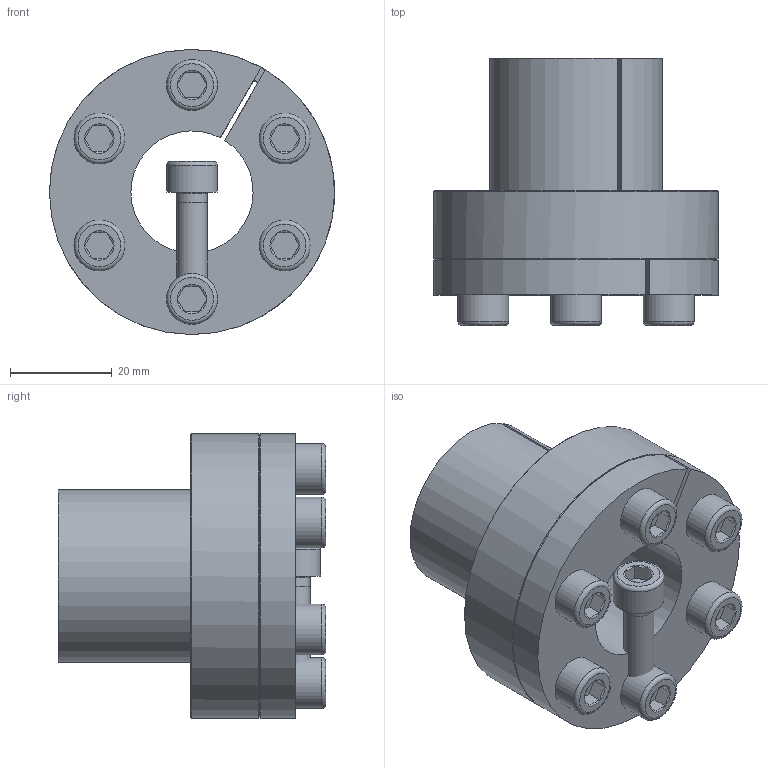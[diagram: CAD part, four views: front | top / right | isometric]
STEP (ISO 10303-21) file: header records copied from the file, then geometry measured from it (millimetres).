
FILE_DESCRIPTION( ( 'Unknown' ), '1' );
FILE_NAME( 'C:/Dokumente und Einstellungen/Sven/Desktop/homepage/cad - homepage/KBS80/KBS 80 - 24 x 34.stp', 'Unknown', ( 'Unknown' ), ( 'Unknown' ), 'XStep 1.0', 'Unknown', ' ' );
FILE_SCHEMA( ( 'automotive_design' ) );
Length unit declared in the file: millimetre
Products named in the file (8): Assem1; KBS 80 - 24 x 34; ISO EN DIN 4762 M6x18; ISO EN DIN 4762 M6x18-oa0; ISO EN DIN 4762 M6x18-oa1; ISO EN DIN 4762 M6x18-oa2; ISO EN DIN 4762 M6x18-oa3; ISO EN DIN 4762 M6x18-oa4
Bounding box: 56 x 52.5 x 56 mm (x, y, z)
Volume: 108987.9 mm3; surface area: 42166.8 mm2
Topology: 14 solids, 14 shells, 352 faces, 666 edges, 388 vertices
Faces by surface type: plane 160, cone 98, cylinder 70, torus 24
Full cylindrical faces by diameter (mm): 5 x12, 6 x36, 10 x12, 56 x2
Entity records: 4529 total; most frequent: CARTESIAN_POINT 931, DIRECTION 724, ORIENTED_EDGE 534, AXIS2_PLACEMENT_3D 317, EDGE_CURVE 267, EDGE_LOOP 265, FACE_OUTER_BOUND 219, VERTEX_POINT 180
